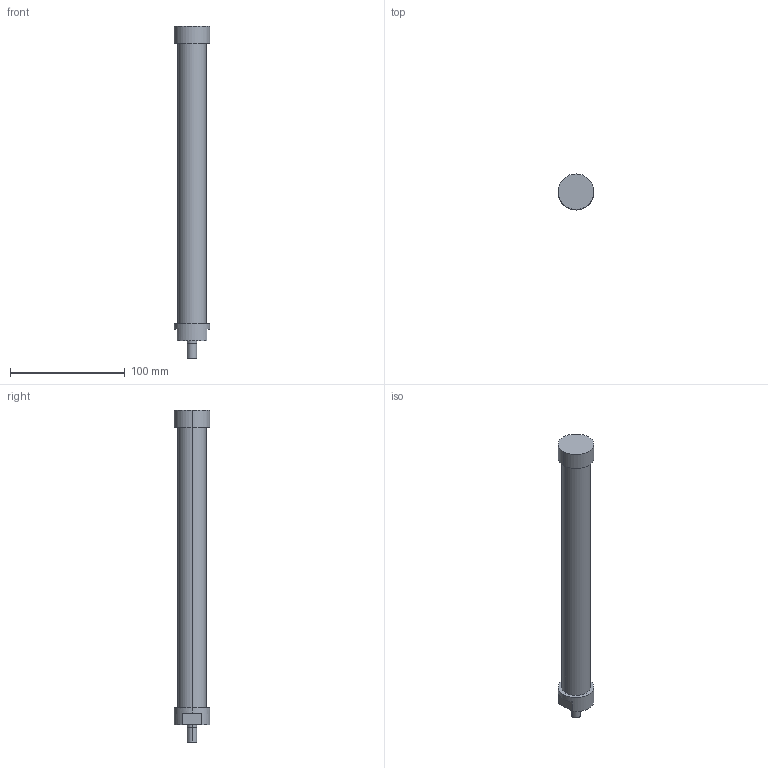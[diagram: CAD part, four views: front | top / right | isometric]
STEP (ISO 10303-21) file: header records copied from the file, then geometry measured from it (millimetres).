
FILE_DESCRIPTION(('STEP AP214'),'1');
FILE_NAME('ETT-R050M284.stp','2015-02-02T14:34:04',(' '),(' '),'Spatial InterOp 3D',' ',' ');
FILE_SCHEMA(('automotive_design'));
Length unit declared in the file: metre
Products named in the file (2): 1; 2
Bounding box: 31 x 31 x 289 mm (x, y, z)
Volume: 142597.7 mm3; surface area: 24756.9 mm2
Topology: 1 solids, 4 shells, 20 faces, 48 edges, 36 vertices
Faces by surface type: cylinder 10, plane 10
Entity records: 812 total; most frequent: DIRECTION 120, CARTESIAN_POINT 106, ORIENTED_EDGE 84, AXIS2_PLACEMENT_3D 50, EDGE_CURVE 48, VERTEX_POINT 36, CIRCLE 28, EDGE_LOOP 24
